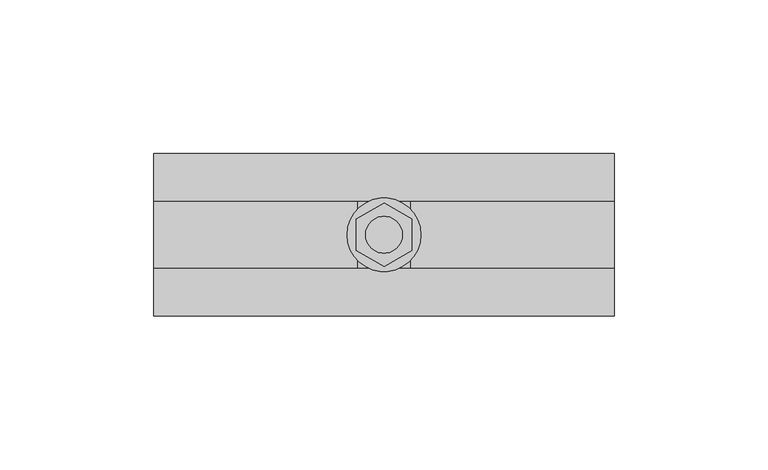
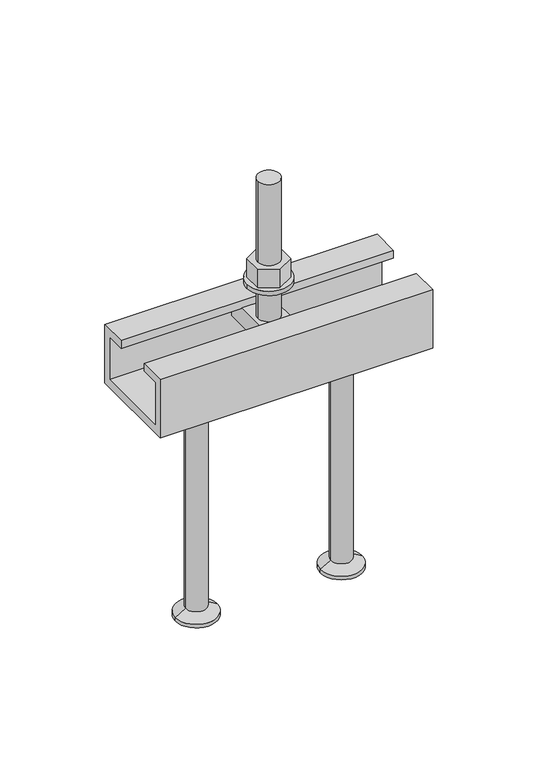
"""IFC4 building model written with IfcOpenShell, lengths in millimetres: fastener geometry, JTA-K JORDAHL® AnchorChannels : JTA-K L=150 mm."""

import ifcopenshell
import ifcopenshell.guid

model = None  # the IFC model being written
_history = None  # IfcOwnerHistory: only IFC2X3 demands one
_inside = {}  # id of a spatial element -> (the spatial element, [elements in it])
_under = {}  # id of a project, library or spatial element -> (it, [spatial elements below it])
_declared = {}  # id of a project -> (the project, [libraries it declares])
_typed = {}  # id of a type object -> (the type object, [elements of that type])
_made_of = {}  # id of a material, layer set ... -> (it, [elements and type objects made of it])


def new_model(schema):
    """Start an empty IFC model of exactly this schema.

    Asked for "IFC4X3", IfcOpenShell would pick the latest addendum, in which some entities
    have other attributes; the version numbers below select the first issue.
    IFC2X3 requires an IfcOwnerHistory on every rooted entity: one is made here for all.
    """
    global model, _history
    if schema == "IFC4X3":
        model = ifcopenshell.file(schema_version=(4, 3, 0, 0))
    else:
        model = ifcopenshell.file(schema=schema)
    _inside.clear()
    _under.clear()
    _declared.clear()
    _typed.clear()
    _made_of.clear()
    _history = None
    if model.schema == "IFC2X3":
        org = make("IfcOrganization", Name="unknown")
        user = make(
            "IfcPersonAndOrganization",
            ThePerson=make("IfcPerson", FamilyName="unknown"),
            TheOrganization=org,
        )
        app = make(
            "IfcApplication",
            ApplicationDeveloper=org,
            Version="unknown",
            ApplicationFullName="unknown",
            ApplicationIdentifier="unknown",
        )
        _history = make(
            "IfcOwnerHistory",
            OwningUser=user,
            OwningApplication=app,
            ChangeAction="ADDED",
            CreationDate=0,
        )
    return model


def make(cls, **values):
    """One entity of the class cls with the attributes given. An attribute that is None is left unset."""
    return model.create_entity(
        cls, **{name: value for name, value in values.items() if value is not None}
    )


def rooted(cls, **values):
    """An entity with a GlobalId (a new one), such as an element, a storey or a relation."""
    return make(cls, GlobalId=ifcopenshell.guid.new(), OwnerHistory=_history, **values)


def si_unit(unit_type, name, prefix=None):
    """IfcSIUnit, for example si_unit("LENGTHUNIT", "METRE", prefix="MILLI")."""
    return make("IfcSIUnit", UnitType=unit_type, Prefix=prefix, Name=name)


def assignment(units):
    """IfcUnitAssignment: the units of a project."""
    return None if units is None else make("IfcUnitAssignment", Units=units)


def point(xyz):
    """IfcCartesianPoint."""
    return None if xyz is None else make("IfcCartesianPoint", Coordinates=xyz)


def direction(xyz):
    """IfcDirection."""
    return None if xyz is None else make("IfcDirection", DirectionRatios=xyz)


def frame(location, z_axis=None, x_axis=None):
    """IfcAxis2Placement3D, a coordinate frame: its origin and axes. An axis left out is left unset."""
    return make(
        "IfcAxis2Placement3D",
        Location=point(location),
        Axis=direction(z_axis),
        RefDirection=direction(x_axis),
    )


def frame_2d(location, x_axis=None):
    """IfcAxis2Placement2D, a coordinate frame in the plane: its origin and x axis."""
    return make(
        "IfcAxis2Placement2D", Location=point(location), RefDirection=direction(x_axis)
    )


def origin():
    """The frame at (0, 0, 0) with its axes left unset."""
    return frame((0.0, 0.0, 0.0))


def place(relative_to, where):
    """IfcLocalPlacement: puts the frame where relative to a parent placement (None: the world)."""
    return make(
        "IfcLocalPlacement", PlacementRelTo=relative_to, RelativePlacement=where
    )


def context(
    kind, dimensions, precision=None, world=None, true_north=None, identifier=None
):
    """IfcGeometricRepresentationContext, for example the 3D "Model" context."""
    return make(
        "IfcGeometricRepresentationContext",
        ContextIdentifier=identifier,
        ContextType=kind,
        CoordinateSpaceDimension=dimensions,
        Precision=precision,
        WorldCoordinateSystem=world,
        TrueNorth=true_north,
    )


def project(units=None, contexts=None):
    """IfcProject with its units and contexts."""
    return rooted(
        "IfcProject",
        Name="project",
        RepresentationContexts=contexts,
        UnitsInContext=assignment(units),
    )


def spatial(cls, under=None, at=None, **own):
    """A site, building, storey or space (cls), placed at a placement, below another one or the project."""
    s = rooted(cls, ObjectPlacement=at, **own)
    if under is not None:
        _under.setdefault(under.id(), (under, []))[1].append(s)
    return s


def polyline(points):
    """IfcPolyline through the points."""
    return make("IfcPolyline", Points=[point(p) for p in points])


def circle_curve(where, radius):
    """IfcCircle in the frame where."""
    return make("IfcCircle", Position=where, Radius=radius)


def trimmed(basis, trim1, trim2, sense, master):
    """IfcTrimmedCurve: the piece of a basis curve between two trims."""
    return make(
        "IfcTrimmedCurve",
        BasisCurve=basis,
        Trim1=trim1,
        Trim2=trim2,
        SenseAgreement=sense,
        MasterRepresentation=master,
    )


def segment(curve, same_sense, transition):
    """IfcCompositeCurveSegment."""
    return make(
        "IfcCompositeCurveSegment",
        Transition=transition,
        SameSense=same_sense,
        ParentCurve=curve,
    )


def composite_curve(segments, self_intersect=None):
    """IfcCompositeCurve: segments joined end to end."""
    return make("IfcCompositeCurve", Segments=segments, SelfIntersect=self_intersect)


def outline(outer, holes=None, kind="AREA"):
    """IfcArbitraryClosedProfileDef: a profile drawn as a closed curve; with holes, ...WithVoids."""
    if holes is None:
        return make("IfcArbitraryClosedProfileDef", ProfileType=kind, OuterCurve=outer)
    return make(
        "IfcArbitraryProfileDefWithVoids",
        ProfileType=kind,
        OuterCurve=outer,
        InnerCurves=holes,
    )


def extrude(swept, where, along, depth):
    """IfcExtrudedAreaSolid: the profile swept, set in the frame where, extruded along a direction by depth."""
    return make(
        "IfcExtrudedAreaSolid",
        SweptArea=swept,
        Position=where,
        ExtrudedDirection=direction(along),
        Depth=depth,
    )


def shape(context_of_items, identifier, shape_type, items):
    """IfcShapeRepresentation: the items that make up one representation, for example the "Body"."""
    return make(
        "IfcShapeRepresentation",
        ContextOfItems=context_of_items,
        RepresentationIdentifier=identifier,
        RepresentationType=shape_type,
        Items=items,
    )


def source(mapping_origin, context_of_items, identifier, shape_type, items):
    """IfcRepresentationMap: a shape defined once, which mapped items show again and again."""
    return make(
        "IfcRepresentationMap",
        MappingOrigin=mapping_origin,
        MappedRepresentation=shape(context_of_items, identifier, shape_type, items),
    )


def transform(
    local_origin,
    x_axis=None,
    y_axis=None,
    z_axis=None,
    scale=None,
    scale2=None,
    scale3=None,
    uniform=True,
):
    """IfcCartesianTransformationOperator3D, or its non-uniform kind. x_axis, y_axis, z_axis: its Axis1, 2, 3."""
    if uniform:
        return make(
            "IfcCartesianTransformationOperator3D",
            Axis1=direction(x_axis),
            Axis2=direction(y_axis),
            LocalOrigin=point(local_origin),
            Scale=scale,
            Axis3=direction(z_axis),
        )
    return make(
        "IfcCartesianTransformationOperator3DnonUniform",
        Axis1=direction(x_axis),
        Axis2=direction(y_axis),
        LocalOrigin=point(local_origin),
        Scale=scale,
        Axis3=direction(z_axis),
        Scale2=scale2,
        Scale3=scale3,
    )


def mapped(mapping_source, mapping_target):
    """IfcMappedItem: shows the shape of a source again, moved by a transform."""
    return make(
        "IfcMappedItem", MappingSource=mapping_source, MappingTarget=mapping_target
    )


def made_of(thing, what):
    """Note that an element or type object is made of a material, layer set ...; save() writes the relation."""
    if what is not None:
        _made_of.setdefault(what.id(), (what, []))[1].append(thing)
    return thing


def element(
    cls,
    number,
    at=None,
    inside=None,
    cuts=None,
    type_object=None,
    material=None,
    context=None,
    identifier="Body",
    shape_type=None,
    held_by="IfcProductDefinitionShape",
    body=None,
    shapes=None,
    **own,
):
    """One element of the class cls, such as IfcWall. Its Tag is "e" and its number.

    at: its placement. inside: the storey or other place that contains it. cuts: it is an
    opening in that element (IfcRelVoidsElement). A single representation is given by context,
    identifier, shape_type and body (its items); several are given by shapes. held_by: the class
    of the entity that holds the representations. save() writes the other relations.
    """
    e = rooted(cls, Tag="e%d" % number, ObjectPlacement=at, **own)
    if body is not None:
        shapes = [shape(context, identifier, shape_type, body)]
    if shapes is not None:
        e.Representation = make(held_by, Representations=shapes)
    if inside is not None:
        _inside.setdefault(inside.id(), (inside, []))[1].append(e)
    if cuts is not None:
        rooted(
            "IfcRelVoidsElement", RelatingBuildingElement=cuts, RelatedOpeningElement=e
        )
    if type_object is not None:
        _typed.setdefault(type_object.id(), (type_object, []))[1].append(e)
    return made_of(e, material)


def aggregate(whole, parts):
    """IfcRelAggregates: a whole, such as a stair, and the parts it consists of."""
    return rooted("IfcRelAggregates", RelatingObject=whole, RelatedObjects=parts)


def save(model, path):
    """Write the relations noted so far, then the file.

    IfcRelAggregates (storeys below a building ...), IfcRelContainedInSpatialStructure (elements
    in a storey), IfcRelDefinesByType, IfcRelAssociatesMaterial and IfcRelDeclares: one each for
    every whole, place, type object, material and project.
    """
    for whole, parts in _under.values():
        aggregate(whole, parts)
    for where, things in _inside.values():
        rooted(
            "IfcRelContainedInSpatialStructure",
            RelatedElements=things,
            RelatingStructure=where,
        )
    for kind, things in _typed.values():
        rooted("IfcRelDefinesByType", RelatedObjects=things, RelatingType=kind)
    for what, things in _made_of.values():
        rooted("IfcRelAssociatesMaterial", RelatedObjects=things, RelatingMaterial=what)
    for by, libraries in _declared.values():
        rooted("IfcRelDeclares", RelatingContext=by, RelatedDefinitions=libraries)
    model.write(path)


def plane_surface(at):
    """IfcPlane: the flat surface through the origin of the frame at, square to its z axis."""
    return make("IfcPlane", Position=at)


def cylinder_surface(at, radius):
    """IfcCylindricalSurface: all points at the distance radius from the z axis of the frame at."""
    return make("IfcCylindricalSurface", Position=at, Radius=radius)


def revolved_surface(curve, axis_point, axis_direction):
    """IfcSurfaceOfRevolution: the curve turned about the line through axis_point along axis_direction."""
    return make(
        "IfcSurfaceOfRevolution",
        SweptCurve=make("IfcArbitraryOpenProfileDef", ProfileType="CURVE", Curve=curve),
        AxisPosition=make("IfcAxis1Placement", Location=point(axis_point), Axis=direction(axis_direction)),
    )


def advanced_brep(points, edges, surfaces, faces):
    """IfcAdvancedBrep: a solid bounded by faces that lie on surfaces and meet in shared edges.

    An edge is (start, end): straight between two places in points (the first is 0);
    or (start, end, curve); or (start, end, curve, False) where it runs against its curve.
    A face is (place in surfaces, loops), or (place, loops, False) where it looks against
    its surface's normal. A loop lists edges by number (the first is 1), with a minus sign
    where the edge is run from its end to its start. The first loop is the outer one.
    """
    corners = [point(p) for p in points]
    vertices = [make("IfcVertexPoint", VertexGeometry=c) for c in corners]
    made = []
    for start, end, *more in edges:
        made.append(
            make(
                "IfcEdgeCurve",
                EdgeStart=vertices[start],
                EdgeEnd=vertices[end],
                EdgeGeometry=more[0] if more else make("IfcPolyline", Points=[corners[start], corners[end]]),
                SameSense=more[1] if len(more) > 1 else True,
            )
        )
    hull = []
    for where, loops, *sense in faces:
        bounds = []
        for j, loop in enumerate(loops):
            ring = [make("IfcOrientedEdge", EdgeElement=made[abs(k) - 1], Orientation=k > 0) for k in loop]
            bounds.append(
                make(
                    "IfcFaceOuterBound" if j == 0 else "IfcFaceBound",
                    Bound=make("IfcEdgeLoop", EdgeList=ring),
                    Orientation=True,
                )
            )
        hull.append(make("IfcAdvancedFace", Bounds=bounds, FaceSurface=surfaces[where], SameSense=sense[0] if sense else True))
    return make("IfcAdvancedBrep", Outer=make("IfcClosedShell", CfsFaces=hull))


def fastener_2c76f361(model_context):
    return source(origin(), model_context, "Body", "SolidModel", [
        extrude(outline(polyline([(75.0, -10.3923048), (66.0, -5.1961524), (66.0, 5.1961524), (75.0, 10.3923048), (84.0, 5.1961524), (84.0, -5.1961524), (75.0, -10.3923048)]), holes=[composite_curve([segment(trimmed(circle_curve(frame_2d((75.0, 0.0)), 6.0), [point((69.0, 0.0))], [point((81.0, 0.0))], True, "CARTESIAN"), True, "CONTINUOUS"), segment(trimmed(circle_curve(frame_2d((75.0, 0.0)), 6.0), [point((81.0, 0.0))], [point((69.0, 0.0))], True, "CARTESIAN"), True, "CONTINUOUS")], self_intersect=False)]), frame((0.0, 0.0, 17.5), z_axis=(0.0, 0.0, 1.0), x_axis=(1.0, 0.0, 0.0)), (0.0, 0.0, 1.0), 10.8),
        extrude(outline(composite_curve([segment(trimmed(circle_curve(frame_2d((75.0, 0.0)), 12.0), [point((63.0, 0.0))], [point((87.0, 0.0))], False, "CARTESIAN"), True, "CONTINUOUS"), segment(trimmed(circle_curve(frame_2d((75.0, 0.0)), 12.0), [point((87.0, 0.0))], [point((63.0, 0.0))], False, "CARTESIAN"), True, "CONTINUOUS")], self_intersect=False), holes=[composite_curve([segment(trimmed(circle_curve(frame_2d((75.0, 0.0)), 6.5), [point((68.5, 0.0))], [point((81.5, 0.0))], True, "CARTESIAN"), True, "CONTINUOUS"), segment(trimmed(circle_curve(frame_2d((75.0, 0.0)), 6.5), [point((81.5, 0.0))], [point((68.5, 0.0))], True, "CARTESIAN"), True, "CONTINUOUS")], self_intersect=False)]), frame((0.0, 0.0, 15.0), z_axis=(0.0, 0.0, 1.0), x_axis=(1.0, 0.0, 0.0)), (0.0, 0.0, 1.0), 2.5),
        advanced_brep(
        [(83.5, -20.7, -4.5), (83.5, -20.7, -14.5), (83.5, 20.7, -14.5), (83.5, 20.7, -4.5), (66.5, -20.7, -4.5), (66.5, 20.7, -4.5), (66.5, 20.7, -14.5), (66.5, -20.7, -14.5), (81.0, 0.0, -4.5), (69.0, 0.0, -4.5), (69.0, 0.0, 75.5), (81.0, 0.0, 75.5)],
        [
            (0, 1),
            (1, 2),
            (2, 3),
            (3, 0),
            (4, 5),
            (5, 6),
            (6, 7),
            (7, 4),
            (3, 5),
            (4, 0),
            (8, 9, circle_curve(frame((75.0, 0.0, -4.5), z_axis=(0.0, 0.0, -1.0), x_axis=(1.0, 0.0, 0.0)), 6.0)),
            (9, 8, circle_curve(frame((75.0, 0.0, -4.5), z_axis=(0.0, 0.0, -1.0), x_axis=(1.0, 0.0, 0.0)), 6.0)),
            (2, 6),
            (1, 7),
            (10, 11, circle_curve(frame((75.0, 0.0, 75.5), z_axis=(0.0, 0.0, 1.0), x_axis=(1.0, 0.0, 0.0)), 6.0)),
            (11, 10, circle_curve(frame((75.0, 0.0, 75.5), z_axis=(0.0, 0.0, 1.0), x_axis=(1.0, 0.0, 0.0)), 6.0)),
            (11, 8),
            (9, 10),
        ],
        [
            plane_surface(frame((83.5, 20.7, -4.5), z_axis=(1.0, 0.0, 0.0), x_axis=(0.0, 1.0, 0.0))),
            plane_surface(frame((66.5, 20.7, -4.5), z_axis=(-1.0, 0.0, 0.0), x_axis=(0.0, -1.0, 0.0))),
            plane_surface(frame((83.5, -20.7, -4.5), z_axis=(0.0, 0.0, 1.0), x_axis=(-1.0, 0.0, 0.0))),
            plane_surface(frame((83.5, 20.7, -4.5), z_axis=(0.0, 1.0, 0.0), x_axis=(-1.0, 0.0, 0.0))),
            plane_surface(frame((83.5, 20.7, -14.5), z_axis=(0.0, 0.0, -1.0), x_axis=(-1.0, 0.0, 0.0))),
            plane_surface(frame((83.5, -20.7, -14.5), z_axis=(0.0, -1.0, 0.0), x_axis=(-1.0, 0.0, 0.0))),
            plane_surface(frame((81.0, 0.0, 75.5), z_axis=(0.0, 0.0, 1.0), x_axis=(0.0, -1.0, 0.0))),
            cylinder_surface(frame((75.0, 0.0, -4.5), z_axis=(0.0, 0.0, 1.0), x_axis=(1.0, 0.0, 0.0)), 6.0),
        ],
        [
            (0, [[1, 2, 3, 4]]),
            (1, [[5, 6, 7, 8]]),
            (2, [[9, -5, 10, -4], [11, 12]]),
            (3, [[13, -6, -9, -3]]),
            (4, [[14, -7, -13, -2]]),
            (5, [[-10, -8, -14, -1]]),
            (6, [[15, 16]]),
            (7, [[17, -12, 18, -16]]),
            (7, [[-18, -11, -17, -15]]),
        ],
    ),
        advanced_brep(
        [(115.0, 0.0, -34.0), (97.5, 0.0, -34.0), (132.5, 0.0, -34.0), (103.5, 0.0, -165.0), (115.0, 0.0, -165.0), (126.5, 0.0, -165.0), (103.5, 0.0, -163.0), (126.5, 0.0, -163.0), (109.2, 0.0, -159.7091035), (120.8, 0.0, -159.7091035), (109.2, 0.0, -37.0), (120.8, 0.0, -37.0)],
        [
            (0, 1),
            (1, 2, circle_curve(frame((115.0, 0.0, -34.0), z_axis=(0.0, 0.0, 1.0), x_axis=(1.0, 0.0, 0.0)), 17.5)),
            (2, 0),
            (2, 1, circle_curve(frame((115.0, 0.0, -34.0), z_axis=(0.0, 0.0, 1.0), x_axis=(1.0, 0.0, 0.0)), 17.5)),
            (3, 4),
            (4, 5),
            (5, 3, circle_curve(frame((115.0, 0.0, -165.0), z_axis=(0.0, 0.0, -1.0), x_axis=(1.0, 0.0, 0.0)), 11.5)),
            (3, 5, circle_curve(frame((115.0, 0.0, -165.0), z_axis=(0.0, 0.0, -1.0), x_axis=(1.0, 0.0, 0.0)), 11.5)),
            (6, 3),
            (5, 7),
            (7, 6, circle_curve(frame((115.0, 0.0, -163.0), z_axis=(0.0, 0.0, -1.0), x_axis=(1.0, 0.0, 0.0)), 11.5)),
            (6, 7, circle_curve(frame((115.0, 0.0, -163.0), z_axis=(0.0, 0.0, -1.0), x_axis=(1.0, 0.0, 0.0)), 11.5)),
            (8, 6),
            (7, 9),
            (9, 8, circle_curve(frame((115.0, 0.0, -159.7091035), z_axis=(0.0, 0.0, -1.0), x_axis=(1.0, 0.0, 0.0)), 5.8)),
            (8, 9, circle_curve(frame((115.0, 0.0, -159.7091035), z_axis=(0.0, 0.0, -1.0), x_axis=(1.0, 0.0, 0.0)), 5.8)),
            (10, 8),
            (9, 11),
            (11, 10, circle_curve(frame((115.0, 0.0, -37.0), z_axis=(0.0, 0.0, -1.0), x_axis=(1.0, 0.0, 0.0)), 5.8)),
            (10, 11, circle_curve(frame((115.0, 0.0, -37.0), z_axis=(0.0, 0.0, -1.0), x_axis=(1.0, 0.0, 0.0)), 5.8)),
            (1, 10),
            (11, 2),
        ],
        [
            plane_surface(frame((115.0, 0.0, -34.0), z_axis=(0.0, 0.0, 1.0), x_axis=(1.0, 0.0, 0.0))),
            plane_surface(frame((115.0, 0.0, -165.0), z_axis=(0.0, 0.0, -1.0), x_axis=(1.0, 0.0, 0.0))),
            cylinder_surface(frame((115.0, 0.0, 2345.3150031), z_axis=(0.0, 0.0, 1.0), x_axis=(1.0, 0.0, 0.0)), 11.5),
            revolved_surface(polyline([(126.5, 0.0, -163.0), (120.8, 0.0, -159.7091035)]), (115.0, 0.0, 2345.3150031), (0.0, 0.0, 1.0)),
            cylinder_surface(frame((115.0, 0.0, 2345.3150031), z_axis=(0.0, 0.0, 1.0), x_axis=(1.0, 0.0, 0.0)), 5.8),
            revolved_surface(polyline([(120.8, 0.0, -37.0), (132.5, 0.0, -34.0)]), (115.0, 0.0, 2345.3150031), (0.0, 0.0, 1.0)),
        ],
        [
            (0, [[1, 2, 3]]),
            (0, [[-3, 4, -1]]),
            (1, [[5, 6, 7]]),
            (1, [[-6, -5, 8]]),
            (2, [[9, -7, 10, 11]]),
            (2, [[-10, -8, -9, 12]]),
            (3, [[13, -11, 14, 15]]),
            (3, [[-14, -12, -13, 16]]),
            (4, [[17, -15, 18, 19]]),
            (4, [[-18, -16, -17, 20]]),
            (5, [[21, -19, 22, -2]]),
            (5, [[-22, -20, -21, -4]]),
        ],
    ),
        advanced_brep(
        [(35.0, 0.0, -34.0), (17.5, 0.0, -34.0), (52.5, 0.0, -34.0), (23.5, 0.0, -165.0), (35.0, 0.0, -165.0), (46.5, 0.0, -165.0), (23.5, 0.0, -163.0), (46.5, 0.0, -163.0), (29.2, 0.0, -159.7091035), (40.8, 0.0, -159.7091035), (29.2, 0.0, -37.0), (40.8, 0.0, -37.0)],
        [
            (0, 1),
            (1, 2, circle_curve(frame((35.0, 0.0, -34.0), z_axis=(0.0, 0.0, 1.0), x_axis=(1.0, 0.0, 0.0)), 17.5)),
            (2, 0),
            (2, 1, circle_curve(frame((35.0, 0.0, -34.0), z_axis=(0.0, 0.0, 1.0), x_axis=(1.0, 0.0, 0.0)), 17.5)),
            (3, 4),
            (4, 5),
            (5, 3, circle_curve(frame((35.0, 0.0, -165.0), z_axis=(0.0, 0.0, -1.0), x_axis=(1.0, 0.0, 0.0)), 11.5)),
            (3, 5, circle_curve(frame((35.0, 0.0, -165.0), z_axis=(0.0, 0.0, -1.0), x_axis=(1.0, 0.0, 0.0)), 11.5)),
            (6, 3),
            (5, 7),
            (7, 6, circle_curve(frame((35.0, 0.0, -163.0), z_axis=(0.0, 0.0, -1.0), x_axis=(1.0, 0.0, 0.0)), 11.5)),
            (6, 7, circle_curve(frame((35.0, 0.0, -163.0), z_axis=(0.0, 0.0, -1.0), x_axis=(1.0, 0.0, 0.0)), 11.5)),
            (8, 6),
            (7, 9),
            (9, 8, circle_curve(frame((35.0, 0.0, -159.7091035), z_axis=(0.0, 0.0, -1.0), x_axis=(1.0, 0.0, 0.0)), 5.8)),
            (8, 9, circle_curve(frame((35.0, 0.0, -159.7091035), z_axis=(0.0, 0.0, -1.0), x_axis=(1.0, 0.0, 0.0)), 5.8)),
            (10, 8),
            (9, 11),
            (11, 10, circle_curve(frame((35.0, 0.0, -37.0), z_axis=(0.0, 0.0, -1.0), x_axis=(1.0, 0.0, 0.0)), 5.8)),
            (10, 11, circle_curve(frame((35.0, 0.0, -37.0), z_axis=(0.0, 0.0, -1.0), x_axis=(1.0, 0.0, 0.0)), 5.8)),
            (1, 10),
            (11, 2),
        ],
        [
            plane_surface(frame((35.0, 0.0, -34.0), z_axis=(0.0, 0.0, 1.0), x_axis=(1.0, 0.0, 0.0))),
            plane_surface(frame((35.0, 0.0, -165.0), z_axis=(0.0, 0.0, -1.0), x_axis=(1.0, 0.0, 0.0))),
            cylinder_surface(frame((35.0, 0.0, 2345.3150031), z_axis=(0.0, 0.0, 1.0), x_axis=(1.0, 0.0, 0.0)), 11.5),
            revolved_surface(polyline([(46.5, 0.0, -163.0), (40.8, 0.0, -159.7091035)]), (35.0, 0.0, 2345.3150031), (0.0, 0.0, 1.0)),
            cylinder_surface(frame((35.0, 0.0, 2345.3150031), z_axis=(0.0, 0.0, 1.0), x_axis=(1.0, 0.0, 0.0)), 5.8),
            revolved_surface(polyline([(40.8, 0.0, -37.0), (52.5, 0.0, -34.0)]), (35.0, 0.0, 2345.3150031), (0.0, 0.0, 1.0)),
        ],
        [
            (0, [[1, 2, 3]]),
            (0, [[-3, 4, -1]]),
            (1, [[5, 6, 7]]),
            (1, [[-6, -5, 8]]),
            (2, [[9, -7, 10, 11]]),
            (2, [[-10, -8, -9, 12]]),
            (3, [[13, -11, 14, 15]]),
            (3, [[-14, -12, -13, 16]]),
            (4, [[17, -15, 18, 19]]),
            (4, [[-18, -16, -17, 20]]),
            (5, [[21, -19, 22, -2]]),
            (5, [[-22, -20, -21, -4]]),
        ],
    ),
        extrude(outline(polyline([(-26.5, 0.0), (-11.0, 0.0), (-11.0, -4.5), (-22.0, -4.5), (-22.0, -29.5), (22.0, -29.5), (22.0, -4.5), (11.0, -4.5), (11.0, 0.0), (26.5, 0.0), (26.5, -34.0), (-26.5, -34.0), (-26.5, 0.0)])), frame((0.0, 0.0, 0.0), z_axis=(1.0, 0.0, 0.0), x_axis=(0.0, 1.0, 0.0)), (0.0, 0.0, 1.0), 150.0),
    ])


if __name__ == "__main__":
    model = new_model("IFC4")
    model_context = context("Model", 3, world=origin())
    ifc_project = project(units=[si_unit("LENGTHUNIT", "METRE", prefix="MILLI")], contexts=[model_context])
    site = spatial("IfcSite", under=ifc_project)
    building = spatial("IfcBuilding", under=site)
    placement = place(None, origin())
    fastener_shape = fastener_2c76f361(model_context)
    element("IfcFastener", 1, ObjectType="JTA-K JORDAHL® AnchorChannels : JTA-K L=150 mm", at=placement, inside=building, context=model_context, shape_type="MappedRepresentation", body=[
        mapped(fastener_shape, transform((0.0, 0.0, 0.0), x_axis=(1.0, 0.0, 0.0), y_axis=(0.0, 1.0, 0.0), z_axis=(0.0, 0.0, 1.0))),
    ])
    save(model, "model.ifc")
